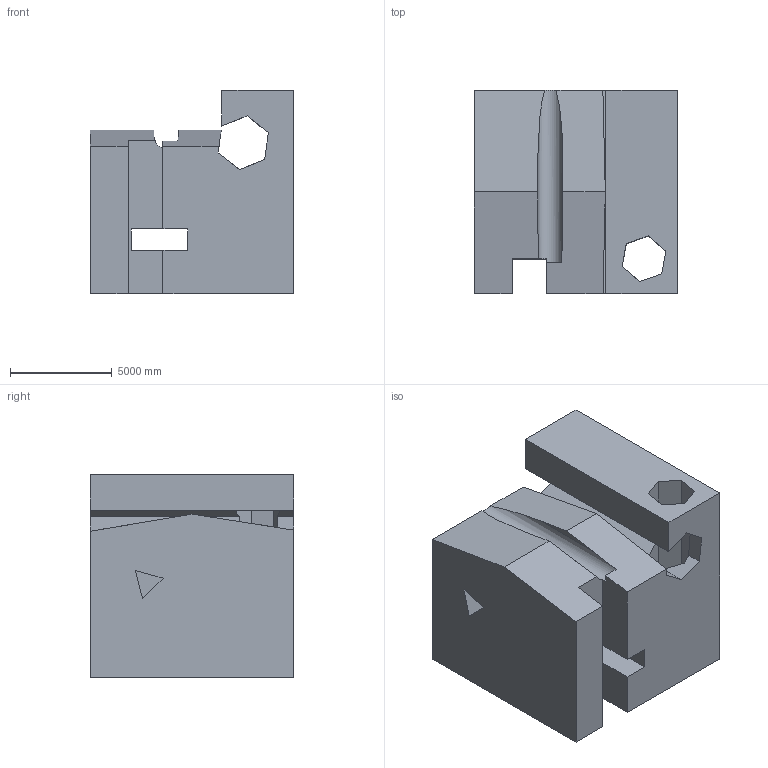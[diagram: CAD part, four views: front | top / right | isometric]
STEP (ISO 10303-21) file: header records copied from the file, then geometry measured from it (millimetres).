
FILE_DESCRIPTION (( 'STEP AP203' ), '1' );
FILE_NAME ('1634.STEP', '2022-08-19T11:13:05', ( 'user' ), ( '' ), 'SwSTEP 2.0', 'SolidWorks 2021', '' );
FILE_SCHEMA (( 'CONFIG_CONTROL_DESIGN' ));
Length unit declared in the file: centimetre
Products named in the file (1): 1634
Bounding box: 10000 x 10000 x 10000 mm (x, y, z)
Volume: 713749256816.2 mm3; surface area: 782466412.9 mm2
Topology: 1 solids, 1 shells, 47 faces, 141 edges, 94 vertices
Faces by surface type: plane 46, cylinder 1
Entity records: 1647 total; most frequent: CARTESIAN_POINT 295, ORIENTED_EDGE 282, DIRECTION 236, EDGE_CURVE 141, VECTOR 134, LINE 134, VERTEX_POINT 94, AXIS2_PLACEMENT_3D 51
